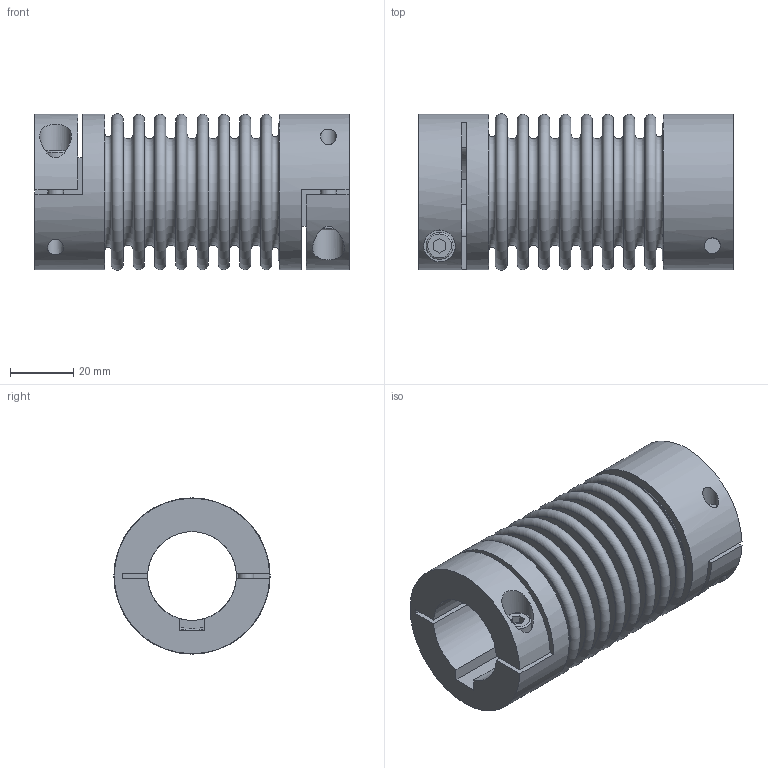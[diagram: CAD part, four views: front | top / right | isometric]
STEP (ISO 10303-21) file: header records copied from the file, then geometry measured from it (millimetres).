
FILE_DESCRIPTION(/* description */ ('STEP AP214'),/* implementation_level */ '2;1');
FILE_NAME(/* name */ 'C:\Diequa Files\DieQua Coupling\Website Step Files\BC.15.99.#.#.stp',/* time_stamp */ '2018-10-25T16:19:52-05:00',/* author */ ('DiequaCAD'),/* organization */ (''),/* preprocessor_version */ 'ST-DEVELOPER v17.2',/* originating_system */ 'Autodesk Inventor 2019',/* authorisation */ ' ');
FILE_SCHEMA (('AUTOMOTIVE_DESIGN { 1 0 10303 214 3 1 1 }'));
Length unit declared in the file: millimetre
Products named in the file (1): BC2.15.99.#.#
Bounding box: 99 x 49.25 x 49.25 mm (x, y, z)
Volume: 53942.3 mm3; surface area: 61071 mm2
Topology: 1 solids, 1 shells, 134 faces, 333 edges, 246 vertices
Faces by surface type: plane 81, torus 39, cylinder 14
Full cylindrical faces by diameter (mm): 5 x4, 8.5 x2, 10 x2, 49 x2
Entity records: 4414 total; most frequent: CARTESIAN_POINT 864, DIRECTION 818, ORIENTED_EDGE 666, AXIS2_PLACEMENT_3D 356, EDGE_CURVE 333, VERTEX_POINT 246, CIRCLE 221, EDGE_LOOP 185
